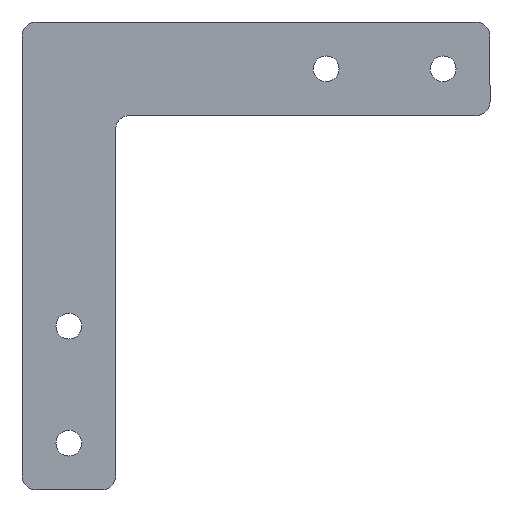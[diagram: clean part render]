
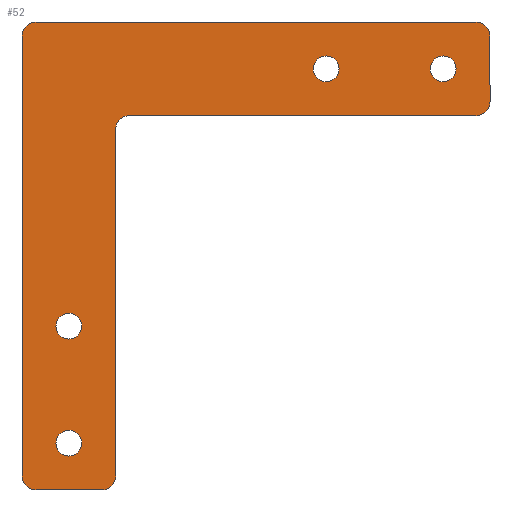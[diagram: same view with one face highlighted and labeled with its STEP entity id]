
A CAD part, front view. The second image highlights one B-rep face of the part: STEP entity #52.
In plain terms, the highlighted planar face has unit normal (0, -1, 0).
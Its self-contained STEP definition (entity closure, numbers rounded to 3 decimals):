
#2 = LINE ( 'NONE', #462, #304 ) ;
#17 = CIRCLE ( 'NONE', #432, 3. ) ;
#24 = CARTESIAN_POINT ( 'NONE',  ( 97., 0., -20. ) ) ;
#25 = EDGE_CURVE ( 'NONE', #489, #604, #353, .T. ) ;
#27 = ORIENTED_EDGE ( 'NONE', *, *, #655, .T. ) ;
#28 = DIRECTION ( 'NONE',  ( 0., -1., 0. ) ) ;
#31 = CARTESIAN_POINT ( 'NONE',  ( 23., 0., -23. ) ) ;
#33 = CARTESIAN_POINT ( 'NONE',  ( 65., 0., -10. ) ) ;
#51 = EDGE_LOOP ( 'NONE', ( #448 ) ) ;
#52 = ADVANCED_FACE ( 'NONE', ( #567, #460, #611, #400, #193 ), #141, .T. ) ;
#53 = DIRECTION ( 'NONE',  ( 1., 0., 0. ) ) ;
#58 = VERTEX_POINT ( 'NONE', #262 ) ;
#70 = CIRCLE ( 'NONE', #452, 2.75 ) ;
#78 = ORIENTED_EDGE ( 'NONE', *, *, #547, .T. ) ;
#82 = AXIS2_PLACEMENT_3D ( 'NONE', #230, #654, #182 ) ;
#86 = DIRECTION ( 'NONE',  ( 0., 0., -1. ) ) ;
#95 = ORIENTED_EDGE ( 'NONE', *, *, #383, .F. ) ;
#105 = CIRCLE ( 'NONE', #357, 3. ) ;
#112 = EDGE_CURVE ( 'NONE', #538, #538, #233, .T. ) ;
#118 = DIRECTION ( 'NONE',  ( 0., -1., 0. ) ) ;
#132 = CARTESIAN_POINT ( 'NONE',  ( 17., 0., -97. ) ) ;
#139 = CIRCLE ( 'NONE', #82, 3. ) ;
#141 = PLANE ( 'NONE',  #675 ) ;
#145 = ORIENTED_EDGE ( 'NONE', *, *, #667, .F. ) ;
#155 = EDGE_LOOP ( 'NONE', ( #78 ) ) ;
#156 = DIRECTION ( 'NONE',  ( 0., -1., 0. ) ) ;
#158 = CARTESIAN_POINT ( 'NONE',  ( 0., 0., -97. ) ) ;
#165 = ORIENTED_EDGE ( 'NONE', *, *, #501, .T. ) ;
#166 = CARTESIAN_POINT ( 'NONE',  ( 65., 0., -7.25 ) ) ;
#176 = VECTOR ( 'NONE', #228, 1000. ) ;
#182 = DIRECTION ( 'NONE',  ( 0., 0., -1. ) ) ;
#186 = CARTESIAN_POINT ( 'NONE',  ( 3., 0., 0. ) ) ;
#189 = DIRECTION ( 'NONE',  ( 0., 0., -1. ) ) ;
#193 = FACE_OUTER_BOUND ( 'NONE', #461, .T. ) ;
#194 = EDGE_CURVE ( 'NONE', #347, #321, #361, .T. ) ;
#197 = EDGE_LOOP ( 'NONE', ( #585 ) ) ;
#201 = ORIENTED_EDGE ( 'NONE', *, *, #401, .T. ) ;
#204 = CARTESIAN_POINT ( 'NONE',  ( 100., 0., 0. ) ) ;
#209 = CARTESIAN_POINT ( 'NONE',  ( 3., 0., -100. ) ) ;
#225 = ORIENTED_EDGE ( 'NONE', *, *, #602, .F. ) ;
#226 = CARTESIAN_POINT ( 'NONE',  ( 10., 0., -62.25 ) ) ;
#228 = DIRECTION ( 'NONE',  ( -1., 0., 0. ) ) ;
#230 = CARTESIAN_POINT ( 'NONE',  ( 97., 0., -3. ) ) ;
#233 = CIRCLE ( 'NONE', #336, 2.75 ) ;
#234 = DIRECTION ( 'NONE',  ( 0., 0., -1. ) ) ;
#239 = DIRECTION ( 'NONE',  ( 0., 0., 1. ) ) ;
#241 = ORIENTED_EDGE ( 'NONE', *, *, #378, .T. ) ;
#242 = DIRECTION ( 'NONE',  ( 0., 0., -1. ) ) ;
#244 = DIRECTION ( 'NONE',  ( 0., 1., 0. ) ) ;
#246 = VERTEX_POINT ( 'NONE', #427 ) ;
#251 = CARTESIAN_POINT ( 'NONE',  ( 97., 0., 0. ) ) ;
#253 = AXIS2_PLACEMENT_3D ( 'NONE', #648, #603, #600 ) ;
#262 = CARTESIAN_POINT ( 'NONE',  ( 10., 0., -87.25 ) ) ;
#265 = DIRECTION ( 'NONE',  ( 0., 0., -1. ) ) ;
#268 = CARTESIAN_POINT ( 'NONE',  ( 100., 0., -20. ) ) ;
#285 = VECTOR ( 'NONE', #558, 1000. ) ;
#288 = CARTESIAN_POINT ( 'NONE',  ( 3., 0., -3. ) ) ;
#291 = AXIS2_PLACEMENT_3D ( 'NONE', #31, #610, #86 ) ;
#292 = VERTEX_POINT ( 'NONE', #572 ) ;
#304 = VECTOR ( 'NONE', #53, 1000. ) ;
#305 = VERTEX_POINT ( 'NONE', #644 ) ;
#306 = CARTESIAN_POINT ( 'NONE',  ( 10., 0., -90. ) ) ;
#319 = LINE ( 'NONE', #484, #370 ) ;
#321 = VERTEX_POINT ( 'NONE', #440 ) ;
#322 = VERTEX_POINT ( 'NONE', #226 ) ;
#323 = LINE ( 'NONE', #490, #436 ) ;
#326 = ORIENTED_EDGE ( 'NONE', *, *, #499, .T. ) ;
#327 = VECTOR ( 'NONE', #534, 1000. ) ;
#333 = ORIENTED_EDGE ( 'NONE', *, *, #194, .F. ) ;
#334 = CARTESIAN_POINT ( 'NONE',  ( 0., 0., -100. ) ) ;
#335 = CIRCLE ( 'NONE', #291, 3. ) ;
#336 = AXIS2_PLACEMENT_3D ( 'NONE', #33, #569, #239 ) ;
#337 = CIRCLE ( 'NONE', #253, 2.75 ) ;
#342 = ORIENTED_EDGE ( 'NONE', *, *, #578, .T. ) ;
#343 = ORIENTED_EDGE ( 'NONE', *, *, #441, .T. ) ;
#345 = CARTESIAN_POINT ( 'NONE',  ( 3., 0., -97. ) ) ;
#347 = VERTEX_POINT ( 'NONE', #24 ) ;
#353 = LINE ( 'NONE', #204, #285 ) ;
#354 = EDGE_LOOP ( 'NONE', ( #241 ) ) ;
#355 = CARTESIAN_POINT ( 'NONE',  ( 100., 0., -17. ) ) ;
#357 = AXIS2_PLACEMENT_3D ( 'NONE', #132, #28, #234 ) ;
#358 = ORIENTED_EDGE ( 'NONE', *, *, #368, .F. ) ;
#361 = LINE ( 'NONE', #268, #327 ) ;
#368 = EDGE_CURVE ( 'NONE', #305, #540, #381, .T. ) ;
#370 = VECTOR ( 'NONE', #265, 1000. ) ;
#378 = EDGE_CURVE ( 'NONE', #322, #322, #517, .T. ) ;
#380 = CARTESIAN_POINT ( 'NONE',  ( 90., 0., -7.25 ) ) ;
#381 = LINE ( 'NONE', #334, #176 ) ;
#383 = EDGE_CURVE ( 'NONE', #598, #246, #323, .T. ) ;
#385 = DIRECTION ( 'NONE',  ( 0., 0., 1. ) ) ;
#391 = EDGE_CURVE ( 'NONE', #439, #439, #337, .T. ) ;
#396 = CARTESIAN_POINT ( 'NONE',  ( 100., 0., -3. ) ) ;
#400 = FACE_BOUND ( 'NONE', #197, .T. ) ;
#401 = EDGE_CURVE ( 'NONE', #489, #559, #139, .T. ) ;
#422 = DIRECTION ( 'NONE',  ( 0., 0., -1. ) ) ;
#427 = CARTESIAN_POINT ( 'NONE',  ( 0., 0., -3. ) ) ;
#431 = ORIENTED_EDGE ( 'NONE', *, *, #25, .F. ) ;
#432 = AXIS2_PLACEMENT_3D ( 'NONE', #288, #451, #189 ) ;
#436 = VECTOR ( 'NONE', #443, 1000. ) ;
#439 = VERTEX_POINT ( 'NONE', #380 ) ;
#440 = CARTESIAN_POINT ( 'NONE',  ( 23., 0., -20. ) ) ;
#441 = EDGE_CURVE ( 'NONE', #305, #292, #105, .T. ) ;
#443 = DIRECTION ( 'NONE',  ( 0., 0., 1. ) ) ;
#444 = CIRCLE ( 'NONE', #620, 3. ) ;
#448 = ORIENTED_EDGE ( 'NONE', *, *, #391, .T. ) ;
#451 = DIRECTION ( 'NONE',  ( 0., -1., 0. ) ) ;
#452 = AXIS2_PLACEMENT_3D ( 'NONE', #306, #244, #672 ) ;
#455 = VERTEX_POINT ( 'NONE', #186 ) ;
#460 = FACE_BOUND ( 'NONE', #354, .T. ) ;
#461 = EDGE_LOOP ( 'NONE', ( #95, #342, #358, #343, #145, #165, #333, #27, #431, #201, #225, #326 ) ) ;
#462 = CARTESIAN_POINT ( 'NONE',  ( 100., 0., 0. ) ) ;
#473 = DIRECTION ( 'NONE',  ( 0., 0., -1. ) ) ;
#484 = CARTESIAN_POINT ( 'NONE',  ( 20., 0., -100. ) ) ;
#489 = VERTEX_POINT ( 'NONE', #396 ) ;
#490 = CARTESIAN_POINT ( 'NONE',  ( 0., 0., -100. ) ) ;
#499 = EDGE_CURVE ( 'NONE', #455, #246, #17, .T. ) ;
#501 = EDGE_CURVE ( 'NONE', #623, #321, #335, .T. ) ;
#503 = CARTESIAN_POINT ( 'NONE',  ( 0., 0., 0. ) ) ;
#517 = CIRCLE ( 'NONE', #552, 2.75 ) ;
#532 = CARTESIAN_POINT ( 'NONE',  ( 97., 0., -17. ) ) ;
#534 = DIRECTION ( 'NONE',  ( -1., 0., 0. ) ) ;
#538 = VERTEX_POINT ( 'NONE', #166 ) ;
#540 = VERTEX_POINT ( 'NONE', #209 ) ;
#542 = CARTESIAN_POINT ( 'NONE',  ( 10., 0., -65. ) ) ;
#547 = EDGE_CURVE ( 'NONE', #58, #58, #70, .T. ) ;
#552 = AXIS2_PLACEMENT_3D ( 'NONE', #542, #606, #385 ) ;
#558 = DIRECTION ( 'NONE',  ( 0., 0., -1. ) ) ;
#559 = VERTEX_POINT ( 'NONE', #251 ) ;
#567 = FACE_BOUND ( 'NONE', #155, .T. ) ;
#569 = DIRECTION ( 'NONE',  ( 0., 1., 0. ) ) ;
#572 = CARTESIAN_POINT ( 'NONE',  ( 20., 0., -97. ) ) ;
#578 = EDGE_CURVE ( 'NONE', #598, #540, #609, .T. ) ;
#585 = ORIENTED_EDGE ( 'NONE', *, *, #112, .T. ) ;
#598 = VERTEX_POINT ( 'NONE', #158 ) ;
#600 = DIRECTION ( 'NONE',  ( 0., 0., 1. ) ) ;
#602 = EDGE_CURVE ( 'NONE', #455, #559, #2, .T. ) ;
#603 = DIRECTION ( 'NONE',  ( 0., 1., 0. ) ) ;
#604 = VERTEX_POINT ( 'NONE', #355 ) ;
#606 = DIRECTION ( 'NONE',  ( 0., 1., 0. ) ) ;
#609 = CIRCLE ( 'NONE', #673, 3. ) ;
#610 = DIRECTION ( 'NONE',  ( 0., 1., 0. ) ) ;
#611 = FACE_BOUND ( 'NONE', #51, .T. ) ;
#619 = CARTESIAN_POINT ( 'NONE',  ( 20., 0., -23. ) ) ;
#620 = AXIS2_PLACEMENT_3D ( 'NONE', #532, #118, #422 ) ;
#623 = VERTEX_POINT ( 'NONE', #619 ) ;
#644 = CARTESIAN_POINT ( 'NONE',  ( 17., 0., -100. ) ) ;
#648 = CARTESIAN_POINT ( 'NONE',  ( 90., 0., -10. ) ) ;
#654 = DIRECTION ( 'NONE',  ( 0., -1., 0. ) ) ;
#655 = EDGE_CURVE ( 'NONE', #347, #604, #444, .T. ) ;
#667 = EDGE_CURVE ( 'NONE', #623, #292, #319, .T. ) ;
#672 = DIRECTION ( 'NONE',  ( 0., 0., 1. ) ) ;
#673 = AXIS2_PLACEMENT_3D ( 'NONE', #345, #678, #473 ) ;
#675 = AXIS2_PLACEMENT_3D ( 'NONE', #503, #156, #242 ) ;
#678 = DIRECTION ( 'NONE',  ( 0., -1., 0. ) ) ;
